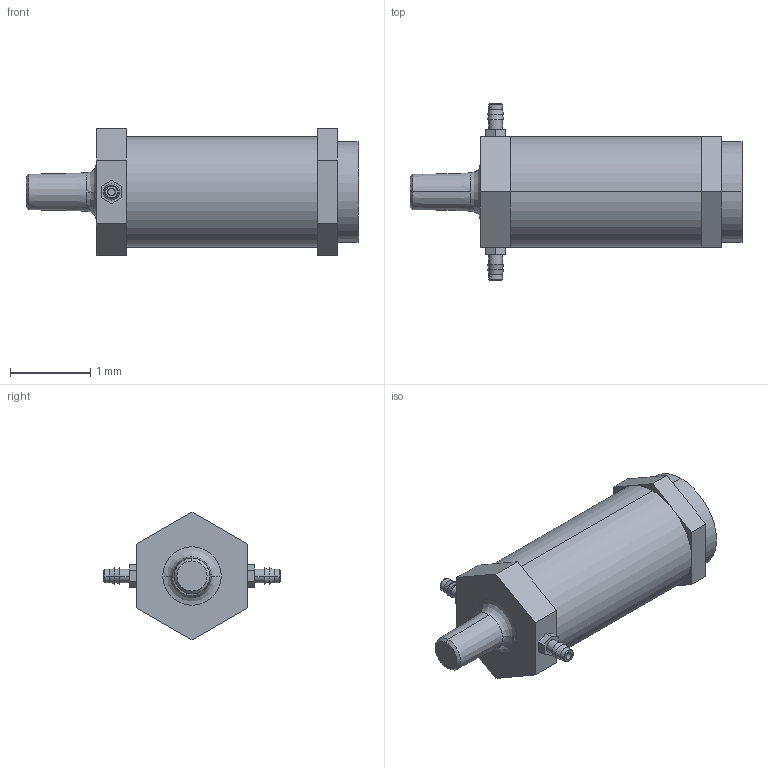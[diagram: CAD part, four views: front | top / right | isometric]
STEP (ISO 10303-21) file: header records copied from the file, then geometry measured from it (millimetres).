
FILE_DESCRIPTION((''),'2;1');
FILE_NAME('XBR3.stp','2017-11-07T11:40:21',(''),(''),'Mechanical Desktop 2011','Mechanical Desktop 2011',', , ');
FILE_SCHEMA(('CONFIG_CONTROL_DESIGN'));
Length unit declared in the file: millimetre
Products named in the file (1): Product
Bounding box: 4.12 x 2.19 x 1.59 mm (x, y, z)
Volume: 5 mm3; surface area: 28.3 mm2
Topology: 6 solids, 6 shells, 77 faces, 165 edges, 107 vertices
Faces by surface type: plane 43, cylinder 16, cone 12, torus 4, bspline 2
Entity records: 2265 total; most frequent: CARTESIAN_POINT 438, DIRECTION 382, ORIENTED_EDGE 330, EDGE_CURVE 165, AXIS2_PLACEMENT_3D 141, VERTEX_POINT 107, VECTOR 100, LINE 100
